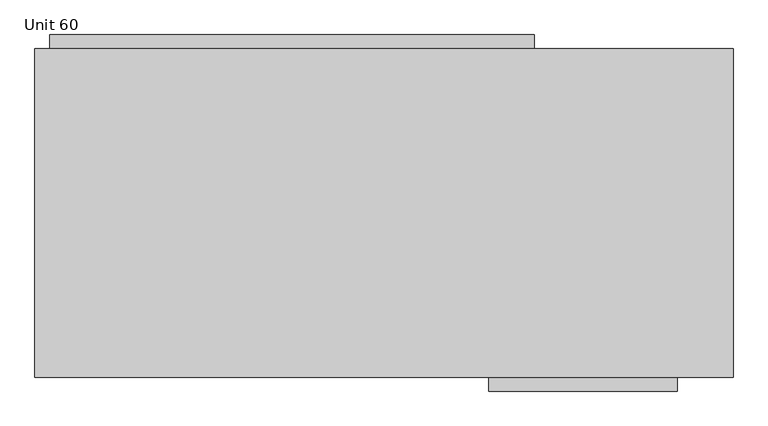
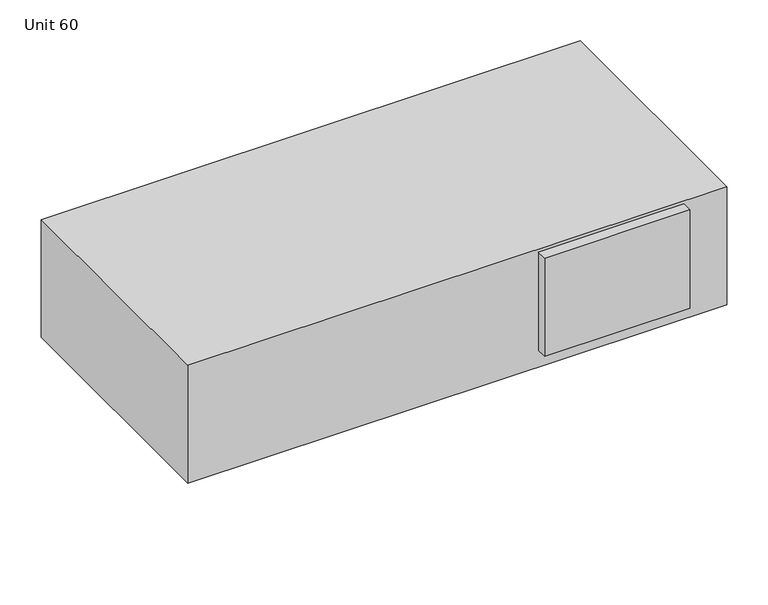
"""IFC4 building model written with IfcOpenShell, lengths in millimetres: proxy geometry, M_WSHP - Horizontal : Unit 60."""

from ifc_helpers import new_model, si_unit, point, frame, frame_2d, origin, origin_with_axes, place, context, project, spatial, polyline, circle_curve, trimmed, segment, composite_curve, outline, extrude, source, transform, mapped, element, save


def unit_60_e5105c5f(model_context):
    return source(origin(), model_context, "Body", "SweptSolid", [
        extrude(outline(polyline([(928.0, 612.2), (28.0, 612.2), (28.0, 637.6), (928.0, 637.6), (928.0, 612.2)])), frame((0.0, 0.0, 25.0), z_axis=(0.0, 0.0, 1.0), x_axis=(1.0, 0.0, 0.0)), (0.0, 0.0, 1.0), 250.0),
        extrude(outline(polyline([(1194.0, -25.4), (844.0, -25.4), (844.0, 0.0), (1194.0, 0.0), (1194.0, -25.4)])), frame((0.0, 0.0, 43.0), z_axis=(0.0, 0.0, 1.0), x_axis=(1.0, 0.0, 0.0)), (0.0, 0.0, 1.0), 250.0),
        extrude(outline(composite_curve([segment(trimmed(circle_curve(frame_2d((83.82, 17.78)), 10.0), [point((73.82, 17.78))], [point((93.82, 17.78))], False, "CARTESIAN"), True, "CONTINUOUS"), segment(trimmed(circle_curve(frame_2d((83.82, 17.78)), 10.0), [point((93.82, 17.78))], [point((73.82, 17.78))], False, "CARTESIAN"), True, "CONTINUOUS")], self_intersect=False)), frame((853.4796875, 0.0, 0.0), z_axis=(1.0, 0.0, 0.0), x_axis=(0.0, 1.0, 0.0)), (0.0, 0.0, 1.0), 444.5203125),
        extrude(outline(composite_curve([segment(trimmed(circle_curve(frame_2d((27.94, 44.0)), 9.525), [point((18.415, 44.0))], [point((37.465, 44.0))], False, "CARTESIAN"), True, "CONTINUOUS"), segment(trimmed(circle_curve(frame_2d((27.94, 44.0)), 9.525), [point((37.465, 44.0))], [point((18.415, 44.0))], False, "CARTESIAN"), True, "CONTINUOUS")], self_intersect=False)), frame((853.4796875, 0.0, 0.0), z_axis=(1.0, 0.0, 0.0), x_axis=(0.0, 1.0, 0.0)), (0.0, 0.0, 1.0), 444.5203125),
        extrude(outline(composite_curve([segment(trimmed(circle_curve(frame_2d((463.2, -192.0)), 12.5), [point((450.7, -192.0))], [point((475.7, -192.0))], False, "CARTESIAN"), True, "CONTINUOUS"), segment(trimmed(circle_curve(frame_2d((463.2, -192.0)), 12.5), [point((475.7, -192.0))], [point((450.7, -192.0))], False, "CARTESIAN"), True, "CONTINUOUS")], self_intersect=False)), frame((853.4796875, 0.0, 0.0), z_axis=(1.0, 0.0, 0.0), x_axis=(0.0, 1.0, 0.0)), (0.0, 0.0, 1.0), 444.5203125),
        extrude(outline(composite_curve([segment(trimmed(circle_curve(frame_2d((554.2, 191.0)), 12.5), [point((541.7, 191.0))], [point((566.7, 191.0))], False, "CARTESIAN"), True, "CONTINUOUS"), segment(trimmed(circle_curve(frame_2d((554.2, 191.0)), 12.5), [point((566.7, 191.0))], [point((541.7, 191.0))], False, "CARTESIAN"), True, "CONTINUOUS")], self_intersect=False)), frame((853.4796875, 0.0, 0.0), z_axis=(1.0, 0.0, 0.0), x_axis=(0.0, 1.0, 0.0)), (0.0, 0.0, 1.0), 444.5203125),
        extrude(outline(polyline([(1298.0, 612.2), (1298.0, 0.0), (0.0, 0.0), (0.0, 612.2), (1298.0, 612.2)])), origin_with_axes(), (0.0, 0.0, 1.0), 300.0),
    ])


if __name__ == "__main__":
    model = new_model("IFC4")
    model_context = context("Model", 3, world=origin())
    ifc_project = project(units=[si_unit("LENGTHUNIT", "METRE", prefix="MILLI")], contexts=[model_context])
    site = spatial("IfcSite", under=ifc_project)
    building = spatial("IfcBuilding", under=site)
    placement = place(None, origin())
    unit_60_shape = unit_60_e5105c5f(model_context)
    element("IfcBuildingElementProxy", 1, Name="M_WSHP - Horizontal : Unit 60", ObjectType="M_WSHP - Horizontal : Unit 60", at=placement, inside=building, context=model_context, shape_type="MappedRepresentation", body=[
        mapped(unit_60_shape, transform((0.0, 0.0, 0.0), x_axis=(1.0, 0.0, 0.0), y_axis=(0.0, 1.0, 0.0), z_axis=(0.0, 0.0, 1.0))),
    ])
    save(model, "model.ifc")
